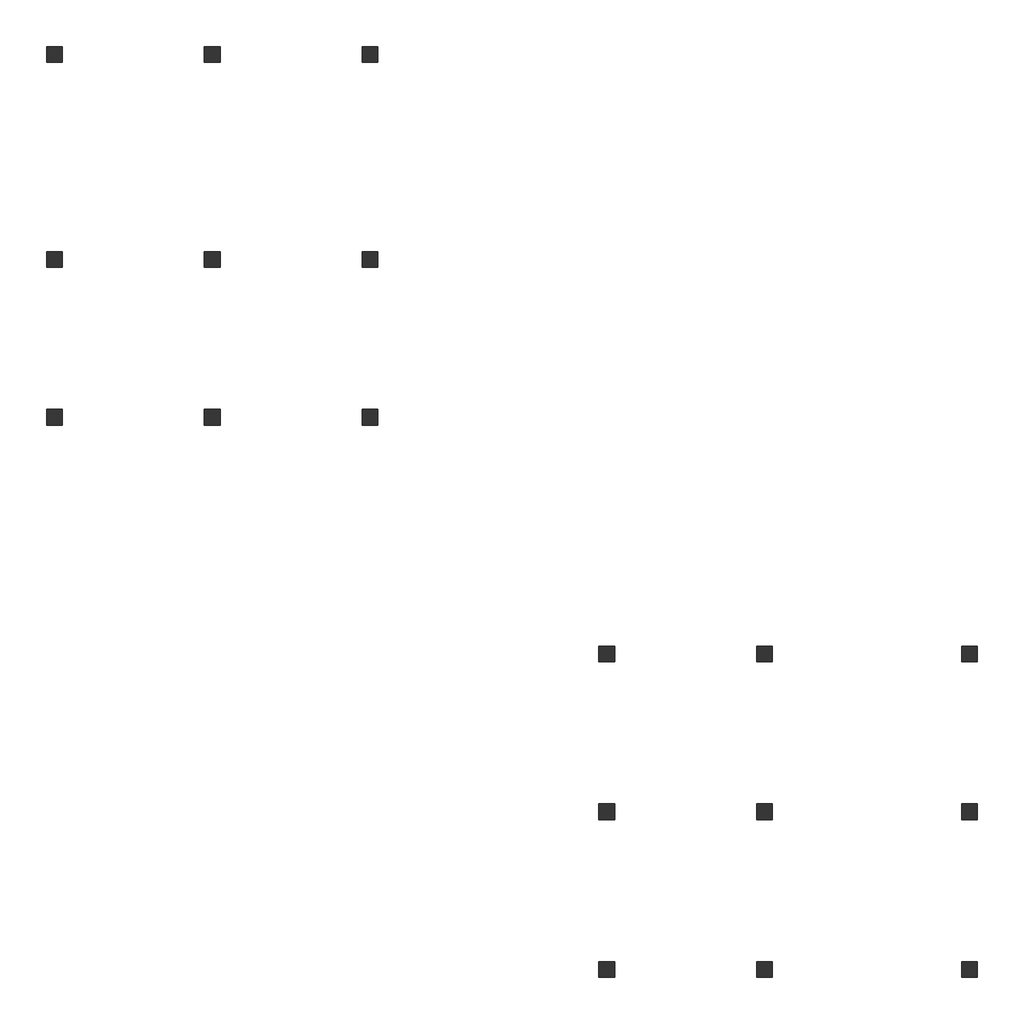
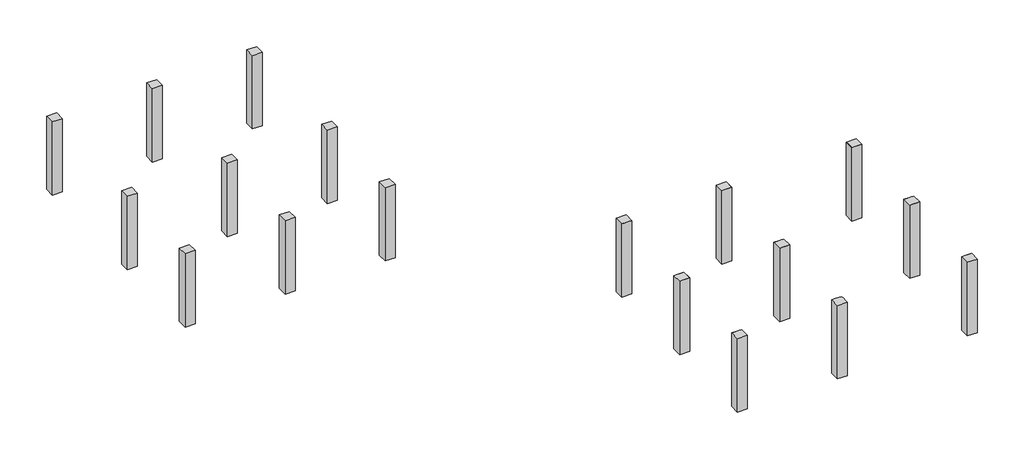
# One storey: 27 columns.
"""IFC4 building model written with IfcOpenShell, lengths in millimetres."""

import ifcopenshell
import ifcopenshell.guid

model = None  # the IFC model being written
_history = None  # IfcOwnerHistory: only IFC2X3 demands one
_inside = {}  # id of a spatial element -> (the spatial element, [elements in it])
_under = {}  # id of a project, library or spatial element -> (it, [spatial elements below it])
_declared = {}  # id of a project -> (the project, [libraries it declares])
_typed = {}  # id of a type object -> (the type object, [elements of that type])
_made_of = {}  # id of a material, layer set ... -> (it, [elements and type objects made of it])


def new_model(schema):
    """Start an empty IFC model of exactly this schema.

    Asked for "IFC4X3", IfcOpenShell would pick the latest addendum, in which some entities
    have other attributes; the version numbers below select the first issue.
    IFC2X3 requires an IfcOwnerHistory on every rooted entity: one is made here for all.
    """
    global model, _history
    if schema == "IFC4X3":
        model = ifcopenshell.file(schema_version=(4, 3, 0, 0))
    else:
        model = ifcopenshell.file(schema=schema)
    _inside.clear()
    _under.clear()
    _declared.clear()
    _typed.clear()
    _made_of.clear()
    _history = None
    if model.schema == "IFC2X3":
        org = make("IfcOrganization", Name="unknown")
        user = make(
            "IfcPersonAndOrganization",
            ThePerson=make("IfcPerson", FamilyName="unknown"),
            TheOrganization=org,
        )
        app = make(
            "IfcApplication",
            ApplicationDeveloper=org,
            Version="unknown",
            ApplicationFullName="unknown",
            ApplicationIdentifier="unknown",
        )
        _history = make(
            "IfcOwnerHistory",
            OwningUser=user,
            OwningApplication=app,
            ChangeAction="ADDED",
            CreationDate=0,
        )
    return model


def make(cls, **values):
    """One entity of the class cls with the attributes given. An attribute that is None is left unset."""
    return model.create_entity(
        cls, **{name: value for name, value in values.items() if value is not None}
    )


def rooted(cls, **values):
    """An entity with a GlobalId (a new one), such as an element, a storey or a relation."""
    return make(cls, GlobalId=ifcopenshell.guid.new(), OwnerHistory=_history, **values)


def si_unit(unit_type, name, prefix=None):
    """IfcSIUnit, for example si_unit("LENGTHUNIT", "METRE", prefix="MILLI")."""
    return make("IfcSIUnit", UnitType=unit_type, Prefix=prefix, Name=name)


def assignment(units):
    """IfcUnitAssignment: the units of a project."""
    return None if units is None else make("IfcUnitAssignment", Units=units)


def point(xyz):
    """IfcCartesianPoint."""
    return None if xyz is None else make("IfcCartesianPoint", Coordinates=xyz)


def direction(xyz):
    """IfcDirection."""
    return None if xyz is None else make("IfcDirection", DirectionRatios=xyz)


def frame(location, z_axis=None, x_axis=None):
    """IfcAxis2Placement3D, a coordinate frame: its origin and axes. An axis left out is left unset."""
    return make(
        "IfcAxis2Placement3D",
        Location=point(location),
        Axis=direction(z_axis),
        RefDirection=direction(x_axis),
    )


def origin():
    """The frame at (0, 0, 0) with its axes left unset."""
    return frame((0.0, 0.0, 0.0))


def place(relative_to, where):
    """IfcLocalPlacement: puts the frame where relative to a parent placement (None: the world)."""
    return make(
        "IfcLocalPlacement", PlacementRelTo=relative_to, RelativePlacement=where
    )


def context(
    kind, dimensions, precision=None, world=None, true_north=None, identifier=None
):
    """IfcGeometricRepresentationContext, for example the 3D "Model" context."""
    return make(
        "IfcGeometricRepresentationContext",
        ContextIdentifier=identifier,
        ContextType=kind,
        CoordinateSpaceDimension=dimensions,
        Precision=precision,
        WorldCoordinateSystem=world,
        TrueNorth=true_north,
    )


def project(units=None, contexts=None):
    """IfcProject with its units and contexts."""
    return rooted(
        "IfcProject",
        Name="project",
        RepresentationContexts=contexts,
        UnitsInContext=assignment(units),
    )


def spatial(cls, under=None, at=None, **own):
    """A site, building, storey or space (cls), placed at a placement, below another one or the project."""
    s = rooted(cls, ObjectPlacement=at, **own)
    if under is not None:
        _under.setdefault(under.id(), (under, []))[1].append(s)
    return s


def polyline(points):
    """IfcPolyline through the points."""
    return make("IfcPolyline", Points=[point(p) for p in points])


def outline(outer, holes=None, kind="AREA"):
    """IfcArbitraryClosedProfileDef: a profile drawn as a closed curve; with holes, ...WithVoids."""
    if holes is None:
        return make("IfcArbitraryClosedProfileDef", ProfileType=kind, OuterCurve=outer)
    return make(
        "IfcArbitraryProfileDefWithVoids",
        ProfileType=kind,
        OuterCurve=outer,
        InnerCurves=holes,
    )


def extrude(swept, where, along, depth):
    """IfcExtrudedAreaSolid: the profile swept, set in the frame where, extruded along a direction by depth."""
    return make(
        "IfcExtrudedAreaSolid",
        SweptArea=swept,
        Position=where,
        ExtrudedDirection=direction(along),
        Depth=depth,
    )


def faces_of(points, faces, orient=None, outer=None):
    """IfcFace entities. A face is a list of loops; a loop is a list of indices into points, from 0.

    orient and outer hold one flag for each loop. By default every Orientation is true, the
    first loop of a face is its IfcFaceOuterBound and the others are IfcFaceBound.
    """
    made = []
    for i, loops in enumerate(faces):
        bounds = []
        for j, loop in enumerate(loops):
            is_outer = j == 0 if outer is None else outer[i][j]
            bounds.append(
                make(
                    "IfcFaceOuterBound" if is_outer else "IfcFaceBound",
                    Bound=make("IfcPolyLoop", Polygon=[points[k] for k in loop]),
                    Orientation=True if orient is None else orient[i][j],
                )
            )
        made.append(make("IfcFace", Bounds=bounds))
    return made


def faceted_brep(points, faces, orient=None, outer=None, voids=None):
    """IfcFacetedBrep: a solid bounded by flat faces; with voids (closed shells), ...WithVoids."""
    shared = [point(p) for p in points]
    hull = make("IfcClosedShell", CfsFaces=faces_of(shared, faces, orient, outer))
    if voids is None:
        return make("IfcFacetedBrep", Outer=hull)
    return make(
        "IfcFacetedBrepWithVoids",
        Outer=hull,
        Voids=[
            make(cls, CfsFaces=faces_of(shared, fs, o, b)) for cls, fs, o, b in voids
        ],
    )


def shape(context_of_items, identifier, shape_type, items):
    """IfcShapeRepresentation: the items that make up one representation, for example the "Body"."""
    return make(
        "IfcShapeRepresentation",
        ContextOfItems=context_of_items,
        RepresentationIdentifier=identifier,
        RepresentationType=shape_type,
        Items=items,
    )


def made_of(thing, what):
    """Note that an element or type object is made of a material, layer set ...; save() writes the relation."""
    if what is not None:
        _made_of.setdefault(what.id(), (what, []))[1].append(thing)
    return thing


def element(
    cls,
    number,
    at=None,
    inside=None,
    cuts=None,
    type_object=None,
    material=None,
    context=None,
    identifier="Body",
    shape_type=None,
    held_by="IfcProductDefinitionShape",
    body=None,
    shapes=None,
    **own,
):
    """One element of the class cls, such as IfcWall. Its Tag is "e" and its number.

    at: its placement. inside: the storey or other place that contains it. cuts: it is an
    opening in that element (IfcRelVoidsElement). A single representation is given by context,
    identifier, shape_type and body (its items); several are given by shapes. held_by: the class
    of the entity that holds the representations. save() writes the other relations.
    """
    e = rooted(cls, Tag="e%d" % number, ObjectPlacement=at, **own)
    if body is not None:
        shapes = [shape(context, identifier, shape_type, body)]
    if shapes is not None:
        e.Representation = make(held_by, Representations=shapes)
    if inside is not None:
        _inside.setdefault(inside.id(), (inside, []))[1].append(e)
    if cuts is not None:
        rooted(
            "IfcRelVoidsElement", RelatingBuildingElement=cuts, RelatedOpeningElement=e
        )
    if type_object is not None:
        _typed.setdefault(type_object.id(), (type_object, []))[1].append(e)
    return made_of(e, material)


def aggregate(whole, parts):
    """IfcRelAggregates: a whole, such as a stair, and the parts it consists of."""
    return rooted("IfcRelAggregates", RelatingObject=whole, RelatedObjects=parts)


def save(model, path):
    """Write the relations noted so far, then the file.

    IfcRelAggregates (storeys below a building ...), IfcRelContainedInSpatialStructure (elements
    in a storey), IfcRelDefinesByType, IfcRelAssociatesMaterial and IfcRelDeclares: one each for
    every whole, place, type object, material and project.
    """
    for whole, parts in _under.values():
        aggregate(whole, parts)
    for where, things in _inside.values():
        rooted(
            "IfcRelContainedInSpatialStructure",
            RelatedElements=things,
            RelatingStructure=where,
        )
    for kind, things in _typed.values():
        rooted("IfcRelDefinesByType", RelatedObjects=things, RelatingType=kind)
    for what, things in _made_of.values():
        rooted("IfcRelAssociatesMaterial", RelatedObjects=things, RelatingMaterial=what)
    for by, libraries in _declared.values():
        rooted("IfcRelDeclares", RelatingContext=by, RelatedDefinitions=libraries)
    model.write(path)


model = new_model("IFC4")

# Units and contexts
model_context = context("Model", 3, world=origin())
ifc_project = project(units=[si_unit("LENGTHUNIT", "METRE", prefix="MILLI")], contexts=[model_context])

# Site, building, storey
site = spatial("IfcSite", under=ifc_project)
building = spatial("IfcBuilding", under=site)
storey = spatial("IfcBuildingStorey", under=building, Name="T.O.F", Elevation=-1676.4)

# Columns
placement = place(None, origin())
element("IfcColumn", 1, ObjectType="Concrete-Rectangular-Column : 24 x 24", at=placement, inside=storey, context=model_context, shape_type="SweptSolid", body=[
    extrude(outline(polyline([(-38999.8357458, -4018.0965771), (-38999.8357458, -3408.4965771), (-38390.2357458, -3408.4965771), (-38390.2357458, -4018.0965771), (-38999.8357458, -4018.0965771)])), frame((0.0, 0.0, -1676.4), z_axis=(0.0, 0.0, 1.0), x_axis=(1.0, 0.0, 0.0)), (0.0, 0.0, 1.0), 4724.4),
])
element("IfcColumn", 2, ObjectType="Concrete-Rectangular-Column : 24 x 24", at=placement, inside=storey, context=model_context, shape_type="SweptSolid", body=[
    extrude(outline(polyline([(-38999.8357458, 2077.9034229), (-38999.8357458, 2687.5034229), (-38390.2357458, 2687.5034229), (-38390.2357458, 2077.9034229), (-38999.8357458, 2077.9034229)])), frame((0.0, 0.0, -1676.4), z_axis=(0.0, 0.0, 1.0), x_axis=(1.0, 0.0, 0.0)), (0.0, 0.0, 1.0), 4724.4),
])
element("IfcColumn", 3, ObjectType="Concrete-Rectangular-Column : 24 x 24", at=placement, inside=storey, context=model_context, shape_type="SweptSolid", body=[
    extrude(outline(polyline([(-38390.2357458, 10612.3034229), (-38390.2357458, 10002.7034229), (-38999.8357458, 10002.7034229), (-38999.8357458, 10612.3034229), (-38390.2357458, 10612.3034229)])), frame((0.0, 0.0, -1676.4), z_axis=(0.0, 0.0, 1.0), x_axis=(1.0, 0.0, 0.0)), (0.0, 0.0, 1.0), 4724.4),
])
element("IfcColumn", 4, ObjectType="Concrete-Rectangular-Column : 24 x 24", at=placement, inside=storey, context=model_context, shape_type="SweptSolid", body=[
    extrude(outline(polyline([(-32903.8357458, -4018.0965771), (-32903.8357458, -3408.4965771), (-32294.2357458, -3408.4965771), (-32294.2357458, -4018.0965771), (-32903.8357458, -4018.0965771)])), frame((0.0, 0.0, -1676.4), z_axis=(0.0, 0.0, 1.0), x_axis=(1.0, 0.0, 0.0)), (0.0, 0.0, 1.0), 4724.4),
])
element("IfcColumn", 5, ObjectType="Concrete-Rectangular-Column : 24 x 24", at=placement, inside=storey, context=model_context, shape_type="SweptSolid", body=[
    extrude(outline(polyline([(-32903.8357458, 2077.9034229), (-32903.8357458, 2687.5034229), (-32294.2357458, 2687.5034229), (-32294.2357458, 2077.9034229), (-32903.8357458, 2077.9034229)])), frame((0.0, 0.0, -1676.4), z_axis=(0.0, 0.0, 1.0), x_axis=(1.0, 0.0, 0.0)), (0.0, 0.0, 1.0), 4724.4),
])
element("IfcColumn", 6, ObjectType="Concrete-Rectangular-Column : 24 x 24", at=placement, inside=storey, context=model_context, shape_type="SweptSolid", body=[
    extrude(outline(polyline([(-32294.2357458, 10612.3034229), (-32294.2357458, 10002.7034229), (-32903.8357458, 10002.7034229), (-32903.8357458, 10612.3034229), (-32294.2357458, 10612.3034229)])), frame((0.0, 0.0, -1676.4), z_axis=(0.0, 0.0, 1.0), x_axis=(1.0, 0.0, 0.0)), (0.0, 0.0, 1.0), 4724.4),
])
element("IfcColumn", 7, ObjectType="Concrete-Rectangular-Column : 24 x 24", at=placement, inside=storey, context=model_context, shape_type="SweptSolid", body=[
    extrude(outline(polyline([(-26807.8357458, -4018.0965771), (-26807.8357458, -3408.4965771), (-26198.2357458, -3408.4965771), (-26198.2357458, -4018.0965771), (-26807.8357458, -4018.0965771)])), frame((0.0, 0.0, -1676.4), z_axis=(0.0, 0.0, 1.0), x_axis=(1.0, 0.0, 0.0)), (0.0, 0.0, 1.0), 4724.4),
])
element("IfcColumn", 8, ObjectType="Concrete-Rectangular-Column : 24 x 24", at=placement, inside=storey, context=model_context, shape_type="SweptSolid", body=[
    extrude(outline(polyline([(-26807.8357458, 2077.9034229), (-26807.8357458, 2687.5034229), (-26198.2357458, 2687.5034229), (-26198.2357458, 2077.9034229), (-26807.8357458, 2077.9034229)])), frame((0.0, 0.0, -1676.4), z_axis=(0.0, 0.0, 1.0), x_axis=(1.0, 0.0, 0.0)), (0.0, 0.0, 1.0), 4724.4),
])
element("IfcColumn", 9, ObjectType="Concrete-Rectangular-Column : 24 x 24", at=placement, inside=storey, context=model_context, shape_type="SweptSolid", body=[
    extrude(outline(polyline([(-26198.2357458, 10612.3034229), (-26198.2357458, 10002.7034229), (-26807.8357458, 10002.7034229), (-26807.8357458, 10612.3034229), (-26198.2357458, 10612.3034229)])), frame((0.0, 0.0, -1676.4), z_axis=(0.0, 0.0, 1.0), x_axis=(1.0, 0.0, 0.0)), (0.0, 0.0, 1.0), 4724.4),
])
element("IfcColumn", 10, ObjectType="Concrete-Rectangular-Column : 24 x 24", at=placement, inside=storey, context=model_context, shape_type="Brep", body=[
    faceted_brep([(-17663.8357458, -25354.0965771, -1676.4), (-17663.8357458, -24744.4965771, -1676.4), (-17054.2357458, -24744.4965771, -1676.4), (-17054.2357458, -25354.0965771, -1676.4), (-17663.8357458, -25354.0965771, 3048.0), (-17054.2357458, -25354.0965771, 3048.0), (-17054.2357458, -24744.4965771, 3048.0), (-17054.2357458, -24896.8965771, 3048.0), (-17054.2357458, -25201.6965771, 3048.0), (-17663.8357458, -24744.4965771, 3048.0), (-17511.4357458, -24744.4965771, 3048.0), (-17206.6357458, -24744.4965771, 3048.0)], [[[0, 1, 2, 3]], [[4, 0, 3, 5]], [[5, 3, 2, 6, 7, 8]], [[6, 2, 1, 9, 10, 11]], [[9, 1, 0, 4]], [[4, 5, 8, 7, 6, 11, 10, 9]]]),
])
element("IfcColumn", 11, ObjectType="Concrete-Rectangular-Column : 24 x 24", at=placement, inside=storey, context=model_context, shape_type="Brep", body=[
    faceted_brep([(-11567.8357458, -25354.0965771, -1676.4), (-11567.8357458, -24744.4965771, -1676.4), (-10958.2357458, -24744.4965771, -1676.4), (-10958.2357458, -25354.0965771, -1676.4), (-11567.8357458, -25354.0965771, 3048.0), (-10958.2357458, -25354.0965771, 3048.0), (-10958.2357458, -24744.4965771, 3048.0), (-10958.2357458, -24896.8965771, 3048.0), (-10958.2357458, -25201.6965771, 3048.0), (-11567.8357458, -24744.4965771, 3048.0), (-11415.4357458, -24744.4965771, 3048.0), (-11110.6357458, -24744.4965771, 3048.0), (-11567.8357458, -25201.6965771, 3048.0), (-11567.8357458, -24896.8965771, 3048.0)], [[[0, 1, 2, 3]], [[4, 0, 3, 5]], [[5, 3, 2, 6, 7, 8]], [[6, 2, 1, 9, 10, 11]], [[9, 1, 0, 4, 12, 13]], [[4, 5, 8, 7, 6, 11, 10, 9, 13, 12]]]),
])
element("IfcColumn", 12, ObjectType="Concrete-Rectangular-Column : 24 x 24", at=placement, inside=storey, context=model_context, shape_type="Brep", body=[
    faceted_brep([(-3033.4357458, -24744.4965771, -1676.4), (-3033.4357458, -25354.0965771, -1676.4), (-3643.0357458, -25354.0965771, -1676.4), (-3643.0357458, -24744.4965771, -1676.4), (-3033.4357458, -24744.4965771, 3048.0), (-3643.0357458, -24744.4965771, 3048.0), (-3490.6357458, -24744.4965771, 3048.0), (-3185.8357458, -24744.4965771, 3048.0), (-3643.0357458, -25354.0965771, 3048.0), (-3643.0357458, -25201.6965771, 3048.0), (-3643.0357458, -24896.8965771, 3048.0), (-3033.4357458, -25354.0965771, 3048.0)], [[[0, 1, 2, 3]], [[4, 0, 3, 5, 6, 7]], [[5, 3, 2, 8, 9, 10]], [[8, 2, 1, 11]], [[11, 1, 0, 4]], [[4, 7, 6, 5, 10, 9, 8, 11]]]),
])
element("IfcColumn", 13, ObjectType="Concrete-Rectangular-Column : 24 x 24", at=placement, inside=storey, context=model_context, shape_type="Brep", body=[
    faceted_brep([(-17663.8357458, -19258.0965771, -1676.4), (-17663.8357458, -18648.4965771, -1676.4), (-17054.2357458, -18648.4965771, -1676.4), (-17054.2357458, -19258.0965771, -1676.4), (-17663.8357458, -19258.0965771, 3048.0), (-17054.2357458, -19258.0965771, 3048.0), (-17206.6357458, -19258.0965771, 3048.0), (-17511.4357458, -19258.0965771, 3048.0), (-17054.2357458, -18648.4965771, 3048.0), (-17054.2357458, -18800.8965771, 3048.0), (-17054.2357458, -19105.6965771, 3048.0), (-17663.8357458, -18648.4965771, 3048.0), (-17511.4357458, -18648.4965771, 3048.0), (-17206.6357458, -18648.4965771, 3048.0)], [[[0, 1, 2, 3]], [[4, 0, 3, 5, 6, 7]], [[5, 3, 2, 8, 9, 10]], [[8, 2, 1, 11, 12, 13]], [[11, 1, 0, 4]], [[4, 7, 6, 5, 10, 9, 8, 13, 12, 11]]]),
])
element("IfcColumn", 14, ObjectType="Concrete-Rectangular-Column : 24 x 24", at=placement, inside=storey, context=model_context, shape_type="Brep", body=[
    faceted_brep([(-11567.8357458, -19258.0965771, -1676.4), (-11567.8357458, -18648.4965771, -1676.4), (-10958.2357458, -18648.4965771, -1676.4), (-10958.2357458, -19258.0965771, -1676.4), (-11567.8357458, -19258.0965771, 3048.0), (-10958.2357458, -19258.0965771, 3048.0), (-11110.6357458, -19258.0965771, 3048.0), (-11415.4357458, -19258.0965771, 3048.0), (-10958.2357458, -18648.4965771, 3048.0), (-10958.2357458, -18800.8965771, 3048.0), (-10958.2357458, -19105.6965771, 3048.0), (-11567.8357458, -18648.4965771, 3048.0), (-11415.4357458, -18648.4965771, 3048.0), (-11110.6357458, -18648.4965771, 3048.0), (-11567.8357458, -19105.6965771, 3048.0), (-11567.8357458, -18800.8965771, 3048.0)], [[[0, 1, 2, 3]], [[4, 0, 3, 5, 6, 7]], [[5, 3, 2, 8, 9, 10]], [[8, 2, 1, 11, 12, 13]], [[11, 1, 0, 4, 14, 15]], [[4, 7, 6, 5, 10, 9, 8, 13, 12, 11, 15, 14]]]),
])
element("IfcColumn", 15, ObjectType="Concrete-Rectangular-Column : 24 x 24", at=placement, inside=storey, context=model_context, shape_type="Brep", body=[
    faceted_brep([(-3033.4357458, -18648.4965771, -1676.4), (-3033.4357458, -19258.0965771, -1676.4), (-3643.0357458, -19258.0965771, -1676.4), (-3643.0357458, -18648.4965771, -1676.4), (-3033.4357458, -18648.4965771, 3048.0), (-3643.0357458, -18648.4965771, 3048.0), (-3490.6357458, -18648.4965771, 3048.0), (-3185.8357458, -18648.4965771, 3048.0), (-3643.0357458, -19258.0965771, 3048.0), (-3643.0357458, -19105.6965771, 3048.0), (-3643.0357458, -18800.8965771, 3048.0), (-3033.4357458, -19258.0965771, 3048.0), (-3185.8357458, -19258.0965771, 3048.0), (-3490.6357458, -19258.0965771, 3048.0)], [[[0, 1, 2, 3]], [[4, 0, 3, 5, 6, 7]], [[5, 3, 2, 8, 9, 10]], [[8, 2, 1, 11, 12, 13]], [[11, 1, 0, 4]], [[4, 7, 6, 5, 10, 9, 8, 13, 12, 11]]]),
])
element("IfcColumn", 16, ObjectType="Concrete-Rectangular-Column : 24 x 24", at=placement, inside=storey, context=model_context, shape_type="Brep", body=[
    faceted_brep([(-17663.8357458, -13162.0965771, -1676.4), (-17663.8357458, -12552.4965771, -1676.4), (-17054.2357458, -12552.4965771, -1676.4), (-17054.2357458, -13162.0965771, -1676.4), (-17663.8357458, -13162.0965771, 3048.0), (-17054.2357458, -13162.0965771, 3048.0), (-17206.6357458, -13162.0965771, 3048.0), (-17511.4357458, -13162.0965771, 3048.0), (-17054.2357458, -12552.4965771, 3048.0), (-17054.2357458, -12704.8965771, 3048.0), (-17054.2357458, -13009.6965771, 3048.0), (-17663.8357458, -12552.4965771, 3048.0)], [[[0, 1, 2, 3]], [[4, 0, 3, 5, 6, 7]], [[5, 3, 2, 8, 9, 10]], [[8, 2, 1, 11]], [[11, 1, 0, 4]], [[4, 7, 6, 5, 10, 9, 8, 11]]]),
])
element("IfcColumn", 17, ObjectType="Concrete-Rectangular-Column : 24 x 24", at=placement, inside=storey, context=model_context, shape_type="Brep", body=[
    faceted_brep([(-11567.8357458, -13162.0965771, -1676.4), (-11567.8357458, -12552.4965771, -1676.4), (-10958.2357458, -12552.4965771, -1676.4), (-10958.2357458, -13162.0965771, -1676.4), (-11567.8357458, -13162.0965771, 3048.0), (-10958.2357458, -13162.0965771, 3048.0), (-11110.6357458, -13162.0965771, 3048.0), (-11415.4357458, -13162.0965771, 3048.0), (-10958.2357458, -12552.4965771, 3048.0), (-10958.2357458, -12704.8965771, 3048.0), (-10958.2357458, -13009.6965771, 3048.0), (-11567.8357458, -12552.4965771, 3048.0), (-11567.8357458, -13009.6965771, 3048.0), (-11567.8357458, -12704.8965771, 3048.0)], [[[0, 1, 2, 3]], [[4, 0, 3, 5, 6, 7]], [[5, 3, 2, 8, 9, 10]], [[8, 2, 1, 11]], [[11, 1, 0, 4, 12, 13]], [[4, 7, 6, 5, 10, 9, 8, 11, 13, 12]]]),
])
element("IfcColumn", 18, ObjectType="Concrete-Rectangular-Column : 24 x 24", at=placement, inside=storey, context=model_context, shape_type="Brep", body=[
    faceted_brep([(-3033.4357458, -12552.4965771, -1676.4), (-3033.4357458, -13162.0965771, -1676.4), (-3643.0357458, -13162.0965771, -1676.4), (-3643.0357458, -12552.4965771, -1676.4), (-3033.4357458, -12552.4965771, 3048.0), (-3643.0357458, -12552.4965771, 3048.0), (-3643.0357458, -13162.0965771, 3048.0), (-3643.0357458, -13009.6965771, 3048.0), (-3643.0357458, -12704.8965771, 3048.0), (-3033.4357458, -13162.0965771, 3048.0), (-3185.8357458, -13162.0965771, 3048.0), (-3490.6357458, -13162.0965771, 3048.0)], [[[0, 1, 2, 3]], [[4, 0, 3, 5]], [[5, 3, 2, 6, 7, 8]], [[6, 2, 1, 9, 10, 11]], [[9, 1, 0, 4]], [[4, 5, 8, 7, 6, 11, 10, 9]]]),
])
element("IfcColumn", 19, ObjectType="Concrete-Rectangular-Column : 24 x 24", at=placement, inside=storey, context=model_context, shape_type="SweptSolid", body=[
    extrude(outline(polyline([(-17663.8357458, -25354.0965771), (-17663.8357458, -24744.4965771), (-17054.2357458, -24744.4965771), (-17054.2357458, -25354.0965771), (-17663.8357458, -25354.0965771)])), frame((0.0, 0.0, -1676.4), z_axis=(0.0, 0.0, 1.0), x_axis=(1.0, 0.0, 0.0)), (0.0, 0.0, 1.0), 4724.4),
])
element("IfcColumn", 20, ObjectType="Concrete-Rectangular-Column : 24 x 24", at=placement, inside=storey, context=model_context, shape_type="SweptSolid", body=[
    extrude(outline(polyline([(-11567.8357458, -25354.0965771), (-11567.8357458, -24744.4965771), (-10958.2357458, -24744.4965771), (-10958.2357458, -25354.0965771), (-11567.8357458, -25354.0965771)])), frame((0.0, 0.0, -1676.4), z_axis=(0.0, 0.0, 1.0), x_axis=(1.0, 0.0, 0.0)), (0.0, 0.0, 1.0), 4724.4),
])
element("IfcColumn", 21, ObjectType="Concrete-Rectangular-Column : 24 x 24", at=placement, inside=storey, context=model_context, shape_type="SweptSolid", body=[
    extrude(outline(polyline([(-3033.4357458, -24744.4965771), (-3033.4357458, -25354.0965771), (-3643.0357458, -25354.0965771), (-3643.0357458, -24744.4965771), (-3033.4357458, -24744.4965771)])), frame((0.0, 0.0, -1676.4), z_axis=(0.0, 0.0, 1.0), x_axis=(1.0, 0.0, 0.0)), (0.0, 0.0, 1.0), 4724.4),
])
element("IfcColumn", 22, ObjectType="Concrete-Rectangular-Column : 24 x 24", at=placement, inside=storey, context=model_context, shape_type="SweptSolid", body=[
    extrude(outline(polyline([(-17663.8357458, -19258.0965771), (-17663.8357458, -18648.4965771), (-17054.2357458, -18648.4965771), (-17054.2357458, -19258.0965771), (-17663.8357458, -19258.0965771)])), frame((0.0, 0.0, -1676.4), z_axis=(0.0, 0.0, 1.0), x_axis=(1.0, 0.0, 0.0)), (0.0, 0.0, 1.0), 4724.4),
])
element("IfcColumn", 23, ObjectType="Concrete-Rectangular-Column : 24 x 24", at=placement, inside=storey, context=model_context, shape_type="SweptSolid", body=[
    extrude(outline(polyline([(-11567.8357458, -19258.0965771), (-11567.8357458, -18648.4965771), (-10958.2357458, -18648.4965771), (-10958.2357458, -19258.0965771), (-11567.8357458, -19258.0965771)])), frame((0.0, 0.0, -1676.4), z_axis=(0.0, 0.0, 1.0), x_axis=(1.0, 0.0, 0.0)), (0.0, 0.0, 1.0), 4724.4),
])
element("IfcColumn", 24, ObjectType="Concrete-Rectangular-Column : 24 x 24", at=placement, inside=storey, context=model_context, shape_type="SweptSolid", body=[
    extrude(outline(polyline([(-3033.4357458, -18648.4965771), (-3033.4357458, -19258.0965771), (-3643.0357458, -19258.0965771), (-3643.0357458, -18648.4965771), (-3033.4357458, -18648.4965771)])), frame((0.0, 0.0, -1676.4), z_axis=(0.0, 0.0, 1.0), x_axis=(1.0, 0.0, 0.0)), (0.0, 0.0, 1.0), 4724.4),
])
element("IfcColumn", 25, ObjectType="Concrete-Rectangular-Column : 24 x 24", at=placement, inside=storey, context=model_context, shape_type="SweptSolid", body=[
    extrude(outline(polyline([(-17663.8357458, -13162.0965771), (-17663.8357458, -12552.4965771), (-17054.2357458, -12552.4965771), (-17054.2357458, -13162.0965771), (-17663.8357458, -13162.0965771)])), frame((0.0, 0.0, -1676.4), z_axis=(0.0, 0.0, 1.0), x_axis=(1.0, 0.0, 0.0)), (0.0, 0.0, 1.0), 4724.4),
])
element("IfcColumn", 26, ObjectType="Concrete-Rectangular-Column : 24 x 24", at=placement, inside=storey, context=model_context, shape_type="SweptSolid", body=[
    extrude(outline(polyline([(-11567.8357458, -13162.0965771), (-11567.8357458, -12552.4965771), (-10958.2357458, -12552.4965771), (-10958.2357458, -13162.0965771), (-11567.8357458, -13162.0965771)])), frame((0.0, 0.0, -1676.4), z_axis=(0.0, 0.0, 1.0), x_axis=(1.0, 0.0, 0.0)), (0.0, 0.0, 1.0), 4724.4),
])
element("IfcColumn", 27, ObjectType="Concrete-Rectangular-Column : 24 x 24", at=placement, inside=storey, context=model_context, shape_type="SweptSolid", body=[
    extrude(outline(polyline([(-3033.4357458, -12552.4965771), (-3033.4357458, -13162.0965771), (-3643.0357458, -13162.0965771), (-3643.0357458, -12552.4965771), (-3033.4357458, -12552.4965771)])), frame((0.0, 0.0, -1676.4), z_axis=(0.0, 0.0, 1.0), x_axis=(1.0, 0.0, 0.0)), (0.0, 0.0, 1.0), 4724.4),
])

save(model, "model.ifc")
